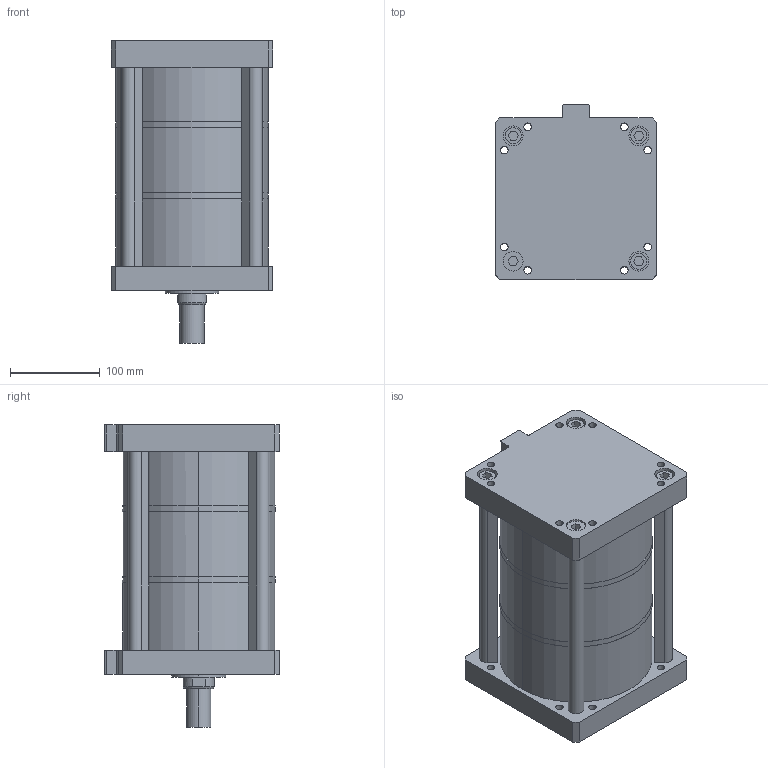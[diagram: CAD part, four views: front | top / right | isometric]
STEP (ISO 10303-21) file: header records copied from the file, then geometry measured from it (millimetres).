
FILE_DESCRIPTION (( 'STEP AP203' ), '1' );
FILE_NAME ('MHK-160-50-E-3.STEP', '2016-03-30T09:34:47', ( 'WIN' ), ( '' ), 'SwSTEP 2.0', 'SolidWorks 2014', '' );
FILE_SCHEMA (( 'CONFIG_CONTROL_DESIGN' ));
Length unit declared in the file: millimetre
Products named in the file (1): MHK-160-50-E-3
Bounding box: 180 x 195 x 337.5 mm (x, y, z)
Volume: 2633353.1 mm3; surface area: 608229.7 mm2
Topology: 2 solids, 3 shells, 319 faces, 780 edges, 498 vertices
Faces by surface type: plane 185, cylinder 124, cone 10
Entity records: 9549 total; most frequent: DIRECTION 1738, CARTESIAN_POINT 1606, ORIENTED_EDGE 1552, EDGE_CURVE 776, AXIS2_PLACEMENT_3D 646, VERTEX_POINT 498, VECTOR 446, LINE 446
